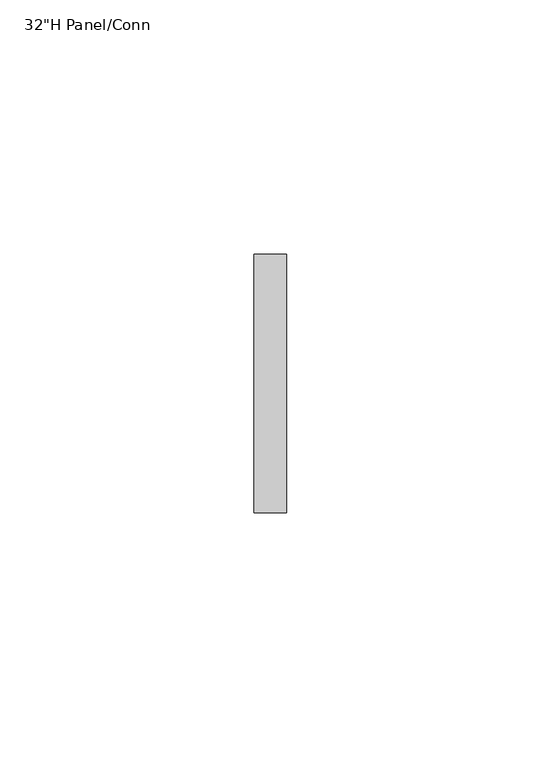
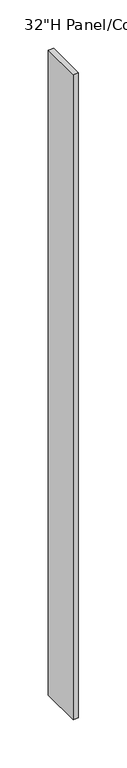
"""IFC4 building model written with IfcOpenShell, lengths in millimetres: furniture geometry."""

from ifc_helpers import new_model, si_unit, frame, origin, place, context, project, spatial, polyline, outline, extrude, source, transform, mapped, element, save


def furniture_4e2c0d57(model_context):
    return source(origin(), model_context, "Body", "SweptSolid", [
        extrude(outline(polyline([(-60.5209988, 104.9709924), (-60.5209967, 54.1709916), (-66.8709967, 54.1709914), (-66.8709988, 104.9709922), (-60.5209988, 104.9709924)])), frame((0.0, 0.0, 552.4500008), z_axis=(0.0, 0.0, 1.0), x_axis=(1.0, 0.0, 0.0)), (0.0, 0.0, 1.0), 812.8),
    ])


if __name__ == "__main__":
    model = new_model("IFC4")
    model_context = context("Model", 3, world=origin())
    ifc_project = project(units=[si_unit("LENGTHUNIT", "METRE", prefix="MILLI")], contexts=[model_context])
    site = spatial("IfcSite", under=ifc_project)
    building = spatial("IfcBuilding", under=site)
    placement = place(None, origin())
    furniture_shape = furniture_4e2c0d57(model_context)
    element("IfcFurniture", 1, ObjectType="HermanMiller_ActionOffice_AO259_AO272_FinishedEndChangeOfHeight : 32\"H Panel/Conn", at=placement, inside=building, context=model_context, shape_type="MappedRepresentation", body=[
        mapped(furniture_shape, transform((0.0, 0.0, 0.0), x_axis=(1.0, 0.0, 0.0), y_axis=(0.0, 1.0, 0.0), z_axis=(0.0, 0.0, 1.0))),
    ])
    save(model, "model.ifc")
